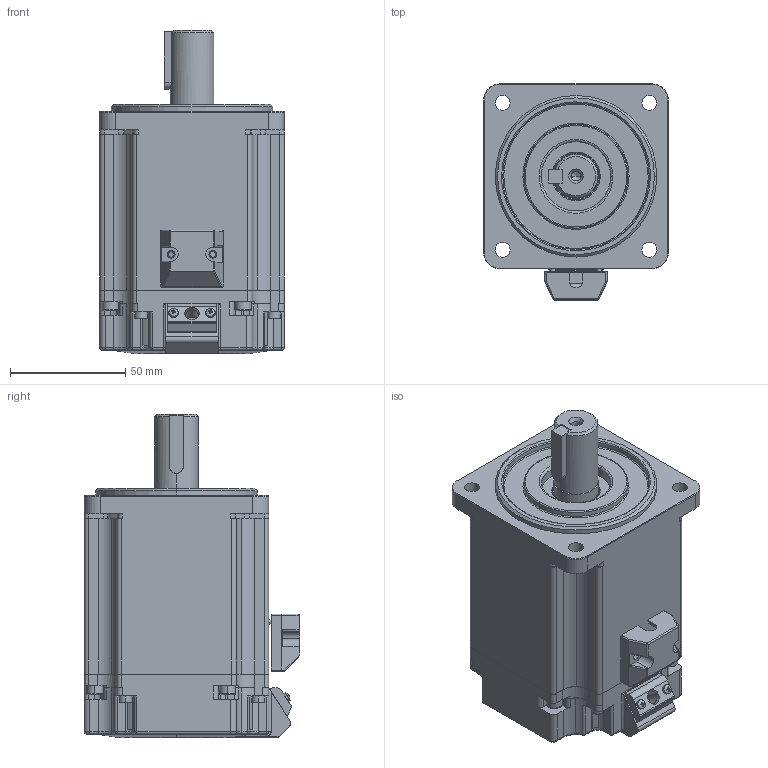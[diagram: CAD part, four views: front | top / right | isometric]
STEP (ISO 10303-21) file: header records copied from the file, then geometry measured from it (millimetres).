
FILE_DESCRIPTION (( 'STEP AP203' ), '1' );
FILE_NAME ('BMR-Z08B08030-拸惕掅.STEP', '2024-03-12T06:28:09', ( 'lvbing' ), ( 'WG' ), 'SwSTEP 2.0', 'SolidWorks 2018', '' );
FILE_SCHEMA (( 'CONFIG_CONTROL_DESIGN' ));
Length unit declared in the file: millimetre
Products named in the file (2): BMR-Z08B08030-拸惕掅
Bounding box: 80 x 93.5 x 140 mm (x, y, z)
Volume: 617702.2 mm3; surface area: 83864.2 mm2
Topology: 7 solids, 21 shells, 922 faces, 2284 edges, 1443 vertices
Faces by surface type: plane 394, cylinder 376, bspline 86, cone 66
Entity records: 30548 total; most frequent: CARTESIAN_POINT 8571, DIRECTION 4680, ORIENTED_EDGE 4492, EDGE_CURVE 2246, AXIS2_PLACEMENT_3D 1768, VERTEX_POINT 1443, VECTOR 1144, LINE 1144
